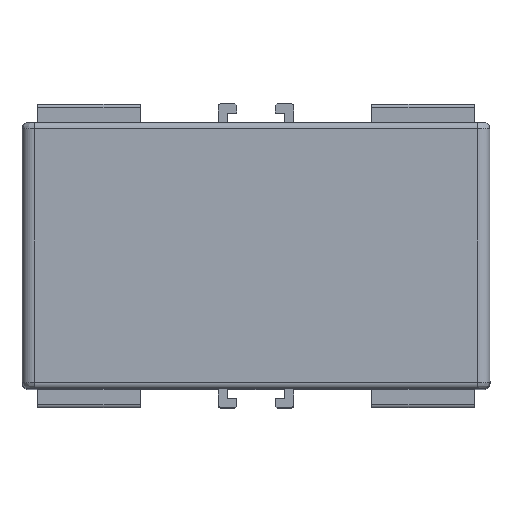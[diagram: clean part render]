
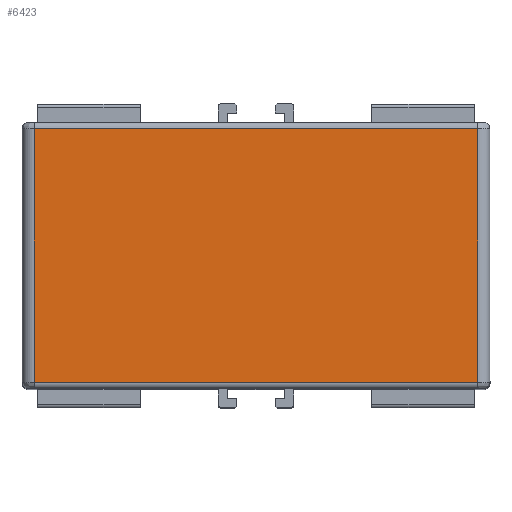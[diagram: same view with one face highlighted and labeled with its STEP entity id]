
A CAD part, top view. The second image highlights one B-rep face of the part: STEP entity #6423.
In plain terms, the highlighted planar face has unit normal (0, 0, 1).
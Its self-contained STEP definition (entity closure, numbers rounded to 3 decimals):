
#529 = VERTEX_POINT ( 'NONE', #32327 ) ;
#2045 = FACE_OUTER_BOUND ( 'NONE', #23487, .T. ) ;
#2257 = CARTESIAN_POINT ( 'NONE',  ( 29.969, -83.932, 39.667 ) ) ;
#2571 = CARTESIAN_POINT ( 'NONE',  ( -41.231, -31.382, 39.667 ) ) ;
#3090 = VERTEX_POINT ( 'NONE', #27451 ) ;
#3835 = VECTOR ( 'NONE', #42182, 1000. ) ;
#5814 = EDGE_CURVE ( 'NONE', #35558, #529, #30609, .T. ) ;
#6423 = ADVANCED_FACE ( 'NONE', ( #2045 ), #27070, .F. ) ;
#8194 = LINE ( 'NONE', #20389, #40398 ) ;
#11499 = DIRECTION ( 'NONE',  ( 0., -1., 0. ) ) ;
#11841 = CARTESIAN_POINT ( 'NONE',  ( 29.969, -43.132, 39.667 ) ) ;
#12740 = CARTESIAN_POINT ( 'NONE',  ( 29.969, -31.382, 39.667 ) ) ;
#13814 = EDGE_CURVE ( 'NONE', #3090, #31412, #8194, .T. ) ;
#14045 = EDGE_CURVE ( 'NONE', #529, #3090, #48423, .T. ) ;
#17146 = VECTOR ( 'NONE', #44193, 1000. ) ;
#20389 = CARTESIAN_POINT ( 'NONE',  ( -43.231, -43.132, 39.667 ) ) ;
#21260 = VECTOR ( 'NONE', #22491, 1000. ) ;
#22491 = DIRECTION ( 'NONE',  ( -1., 0., 0. ) ) ;
#23487 = EDGE_LOOP ( 'NONE', ( #35146, #42943, #34432, #24454 ) ) ;
#24454 = ORIENTED_EDGE ( 'NONE', *, *, #5814, .F. ) ;
#27070 = PLANE ( 'NONE',  #49902 ) ;
#27451 = CARTESIAN_POINT ( 'NONE',  ( -41.231, -43.132, 39.667 ) ) ;
#30609 = LINE ( 'NONE', #39127, #21260 ) ;
#31412 = VERTEX_POINT ( 'NONE', #11841 ) ;
#32327 = CARTESIAN_POINT ( 'NONE',  ( -41.231, -83.932, 39.667 ) ) ;
#33912 = LINE ( 'NONE', #12740, #17146 ) ;
#34432 = ORIENTED_EDGE ( 'NONE', *, *, #14045, .F. ) ;
#35146 = ORIENTED_EDGE ( 'NONE', *, *, #46092, .F. ) ;
#35558 = VERTEX_POINT ( 'NONE', #2257 ) ;
#39024 = CARTESIAN_POINT ( 'NONE',  ( 31.969, -31.382, 39.667 ) ) ;
#39127 = CARTESIAN_POINT ( 'NONE',  ( 31.969, -83.932, 39.667 ) ) ;
#39482 = DIRECTION ( 'NONE',  ( 1., 0., 0. ) ) ;
#40398 = VECTOR ( 'NONE', #39482, 1000. ) ;
#42182 = DIRECTION ( 'NONE',  ( 0., 1., 0. ) ) ;
#42943 = ORIENTED_EDGE ( 'NONE', *, *, #13814, .F. ) ;
#44193 = DIRECTION ( 'NONE',  ( 0., -1., 0. ) ) ;
#46092 = EDGE_CURVE ( 'NONE', #31412, #35558, #33912, .T. ) ;
#48423 = LINE ( 'NONE', #2571, #3835 ) ;
#49902 = AXIS2_PLACEMENT_3D ( 'NONE', #39024, #50938, #11499 ) ;
#50938 = DIRECTION ( 'NONE',  ( 0., 0., -1. ) ) ;
